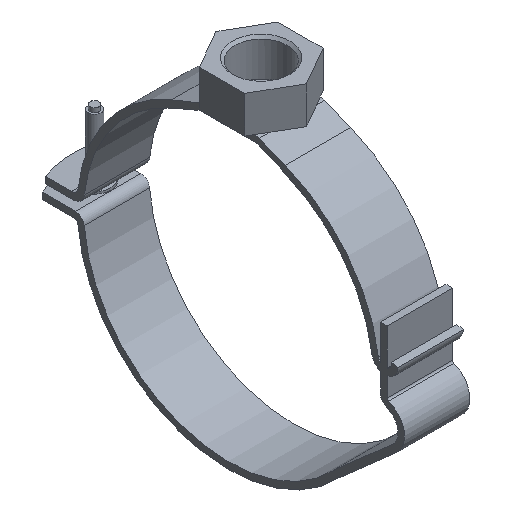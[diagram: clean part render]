
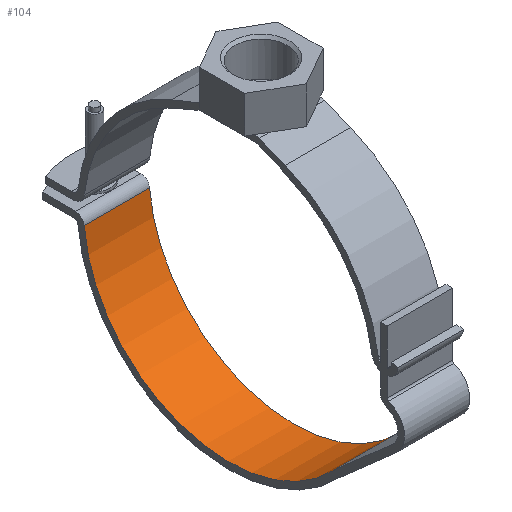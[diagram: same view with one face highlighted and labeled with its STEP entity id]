
A CAD part, isometric view. The second image highlights one B-rep face of the part: STEP entity #104.
In plain terms, the highlighted cylindrical face has radius 66.5 mm (diameter 133 mm), a partial arc.
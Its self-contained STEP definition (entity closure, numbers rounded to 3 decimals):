
#104 = ADVANCED_FACE( '', ( #270 ), #271, .F. );
#270 = FACE_OUTER_BOUND( '', #509, .T. );
#271 = CYLINDRICAL_SURFACE( '', #510, 66.5 );
#509 = EDGE_LOOP( '', ( #771, #772, #773, #774 ) );
#510 = AXIS2_PLACEMENT_3D( '', #775, #776, #777 );
#771 = ORIENTED_EDGE( '', *, *, #1423, .F. );
#772 = ORIENTED_EDGE( '', *, *, #1424, .F. );
#773 = ORIENTED_EDGE( '', *, *, #1425, .T. );
#774 = ORIENTED_EDGE( '', *, *, #1426, .T. );
#775 = CARTESIAN_POINT( '', ( 15., 0., 0. ) );
#776 = DIRECTION( '', ( 1., 0., 0. ) );
#777 = DIRECTION( '', ( 0., 0., 1. ) );
#1423 = EDGE_CURVE( '', #1709, #1710, #1711, .T. );
#1424 = EDGE_CURVE( '', #1712, #1709, #1713, .T. );
#1425 = EDGE_CURVE( '', #1712, #1714, #1715, .T. );
#1426 = EDGE_CURVE( '', #1714, #1710, #1716, .T. );
#1709 = VERTEX_POINT( '', #2119 );
#1710 = VERTEX_POINT( '', #2120 );
#1711 = CIRCLE( '', #2121, 66.5 );
#1712 = VERTEX_POINT( '', #2122 );
#1713 = LINE( '', #2123, #2124 );
#1714 = VERTEX_POINT( '', #2125 );
#1715 = CIRCLE( '', #2126, 66.5 );
#1716 = LINE( '', #2127, #2128 );
#2119 = CARTESIAN_POINT( '', ( -15., -48.514, -45.483 ) );
#2120 = CARTESIAN_POINT( '', ( -15., 66.259, -5.66 ) );
#2121 = AXIS2_PLACEMENT_3D( '', #2582, #2583, #2584 );
#2122 = CARTESIAN_POINT( '', ( 15., -48.514, -45.483 ) );
#2123 = CARTESIAN_POINT( '', ( 15., -48.514, -45.483 ) );
#2124 = VECTOR( '', #2585, 1000. );
#2125 = CARTESIAN_POINT( '', ( 15., 66.259, -5.66 ) );
#2126 = AXIS2_PLACEMENT_3D( '', #2586, #2587, #2588 );
#2127 = CARTESIAN_POINT( '', ( 15., 66.259, -5.66 ) );
#2128 = VECTOR( '', #2589, 1000. );
#2582 = CARTESIAN_POINT( '', ( -15., 0., 0. ) );
#2583 = DIRECTION( '', ( 1., 0., 0. ) );
#2584 = DIRECTION( '', ( 0., 0., -1. ) );
#2585 = DIRECTION( '', ( -1., 0., 0. ) );
#2586 = CARTESIAN_POINT( '', ( 15., 0., 0. ) );
#2587 = DIRECTION( '', ( 1., 0., 0. ) );
#2588 = DIRECTION( '', ( 0., 0., -1. ) );
#2589 = DIRECTION( '', ( -1., 0., 0. ) );
